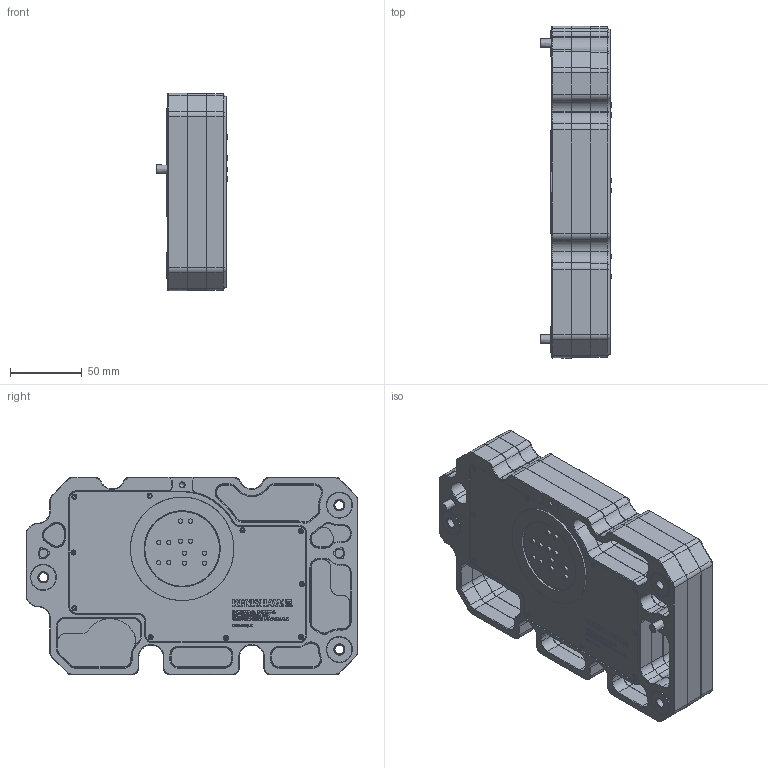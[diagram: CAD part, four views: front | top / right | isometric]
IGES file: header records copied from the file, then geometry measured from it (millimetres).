
Global section: file name: C:\Users\sd140114\OneDrive - Renishaw plc\Documents\IGS FILES\LA-5225-0935-02-A_RMAP-3A MULTI-AXIS PERISCOPE KIT.igs; native system: NX V1926; preprocessor: SIEMENS PLM Software NX 1946; date: 20210625.143404; units: millimetre
Bounding box: 49.5 x 231 x 137.6 mm (x, y, z)
Surface area: 124293.7 mm2 (no closed solid volume)
Topology: 0 solids, 0 shells, 1432 faces, 12001 edges, 11823 vertices
Faces by surface type: bspline 1432
